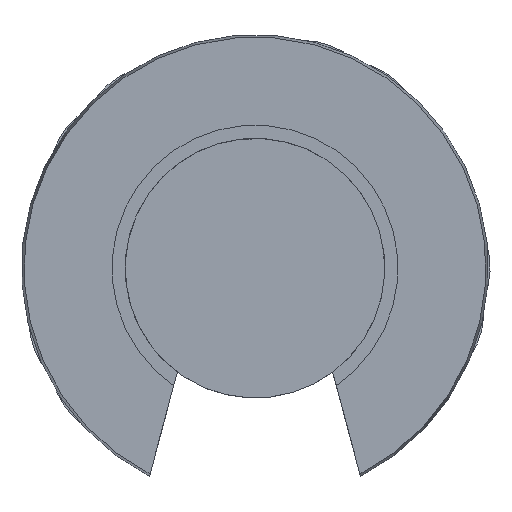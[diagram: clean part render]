
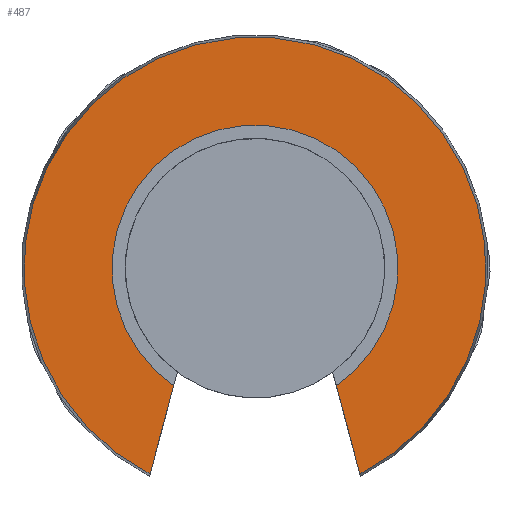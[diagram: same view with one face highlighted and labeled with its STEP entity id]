
A CAD part, front view. The second image highlights one B-rep face of the part: STEP entity #487.
In plain terms, the highlighted planar face has unit normal (0, -1, 0).
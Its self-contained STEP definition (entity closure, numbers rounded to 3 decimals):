
#202=CARTESIAN_POINT('',(6.421,-19.05,-12.595));
#203=VERTEX_POINT('',#202);
#217=CARTESIAN_POINT('',(4.975,-19.05,-7.198));
#218=VERTEX_POINT('',#217);
#219=CARTESIAN_POINT('',(4.975,-19.05,-7.198));
#220=DIRECTION('',(0.259,0.0,-0.966));
#221=VECTOR('',#220,5.587);
#222=LINE('',#219,#221);
#223=EDGE_CURVE('',#218,#203,#222,.T.);
#249=CARTESIAN_POINT('',(-4.975,-19.05,-7.198));
#250=VERTEX_POINT('',#249);
#257=CARTESIAN_POINT('',(-6.421,-19.05,-12.595));
#258=VERTEX_POINT('',#257);
#259=CARTESIAN_POINT('',(-6.421,-19.05,-12.595));
#260=DIRECTION('',(0.259,0.0,0.966));
#261=VECTOR('',#260,5.587);
#262=LINE('',#259,#261);
#263=EDGE_CURVE('',#258,#250,#262,.T.);
#452=CARTESIAN_POINT('',(0.0,-19.05,0.0));
#453=DIRECTION('',(0.0,1.0,0.0));
#454=DIRECTION('',(-1.0,0.0,0.0));
#455=AXIS2_PLACEMENT_3D('',#452,#453,#454);
#456=CIRCLE('',#455,8.75);
#457=EDGE_CURVE('',#250,#218,#456,.T.);
#470=CARTESIAN_POINT('',(-11.444,-19.05,0.0));
#471=DIRECTION('',(0.0,-1.0,0.0));
#472=DIRECTION('',(0.0,0.0,-1.0));
#473=AXIS2_PLACEMENT_3D('',#470,#471,#472);
#474=PLANE('',#473);
#475=ORIENTED_EDGE('',*,*,#223,.T.);
#476=CARTESIAN_POINT('',(0.0,-19.05,0.0));
#477=DIRECTION('',(0.0,1.0,0.0));
#478=DIRECTION('',(-1.0,0.0,0.0));
#479=AXIS2_PLACEMENT_3D('',#476,#477,#478);
#480=CIRCLE('',#479,14.138);
#481=EDGE_CURVE('',#258,#203,#480,.T.);
#482=ORIENTED_EDGE('',*,*,#481,.F.);
#483=ORIENTED_EDGE('',*,*,#263,.T.);
#484=ORIENTED_EDGE('',*,*,#457,.T.);
#485=EDGE_LOOP('',(#475,#482,#483,#484));
#486=FACE_OUTER_BOUND('',#485,.T.);
#487=ADVANCED_FACE('',(#486),#474,.T.);
